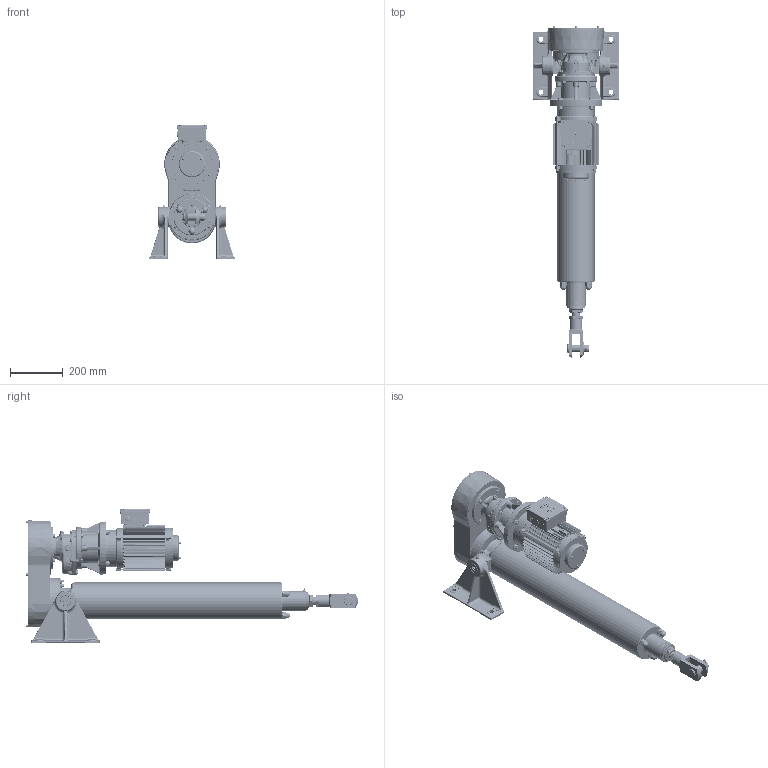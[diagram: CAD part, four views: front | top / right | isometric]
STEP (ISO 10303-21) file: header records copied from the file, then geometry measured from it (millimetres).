
FILE_DESCRIPTION( ( '153-599-4' ), '1' );
FILE_NAME( 'C:/daten/bearbeitung katalogbilder/RBs rendern/austausch pomplun/mit identnr/T1N6-0600-160-231-4.stp', 'Unknown', ( 'Christoph Hahmann' ), ( 'RACO-ELEKTRO-MASCHINEN GmbH' ), 'PSStep 17.0.49', 'Solid Edge ST 7', ' ' );
FILE_SCHEMA( ( 'AUTOMOTIVE_DESIGN { 1 0 10303 214 1 1 1 1 }' ) );
Length unit declared in the file: millimetre
Products named in the file (11): Assem1; 12. 1-5-7 Ø200-oa0; 105-238-1 kpl; BGR 6-7; 01.01-06 Gabelkopf; 01.14-06 kpl2; 01.15-06-0600; 02.01-06 kpl; 02.14-06-0600; 03.01-06 kpl; 03.65-06-7
Assembly tree (11 placements, depth 2):
  Assem1
    12. 1-5-7 Ø200-oa0
    105-238-1 kpl
    BGR 6-7
    01.01-06 Gabelkopf
    01.14-06 kpl2
    01.15-06-0600
    02.01-06 kpl
    02.14-06-0600
    03.01-06 kpl
    03.65-06-7  x2
Bounding box: 325 x 1255.6 x 509 mm (x, y, z)
Surface area: 2532477.9 mm2 (no closed solid volume)
Topology: 0 solids, 8055 shells, 8055 faces, 40516 edges, 39092 vertices
Faces by surface type: plane 3601, cylinder 1858, bspline 791, torus 737, cone 711, sphere 204, extrusion 148, revolution 5
Full cylindrical faces by diameter (mm): 1.6 x2, 2 x1, 2.459 x12, 3 x4, 3.242 x16, 4 x2, 4.02 x4, 4.134 x23, 4.773 x13, 4.917 x6, 5 x23, 5.3 x3, 5.4 x4, 5.5 x8, 5.7 x3, 6 x28, 6.47 x8, 6.6 x11, 6.647 x7, 6.8 x4, 7 x11, 7.33 x1, 7.5 x3, 8 x32, 8.15 x1, 8.2 x1, 8.376 x20, 8.4 x6, 8.5 x4, 8.9 x4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
Entity records: 548155 total; most frequent: CARTESIAN_POINT 198344, DIRECTION 61779, VERTEX_POINT 37863, ORIENTED_EDGE 37804, EDGE_CURVE 37804, AXIS2_PLACEMENT_3D 22328, VECTOR 17118, LINE 16970
